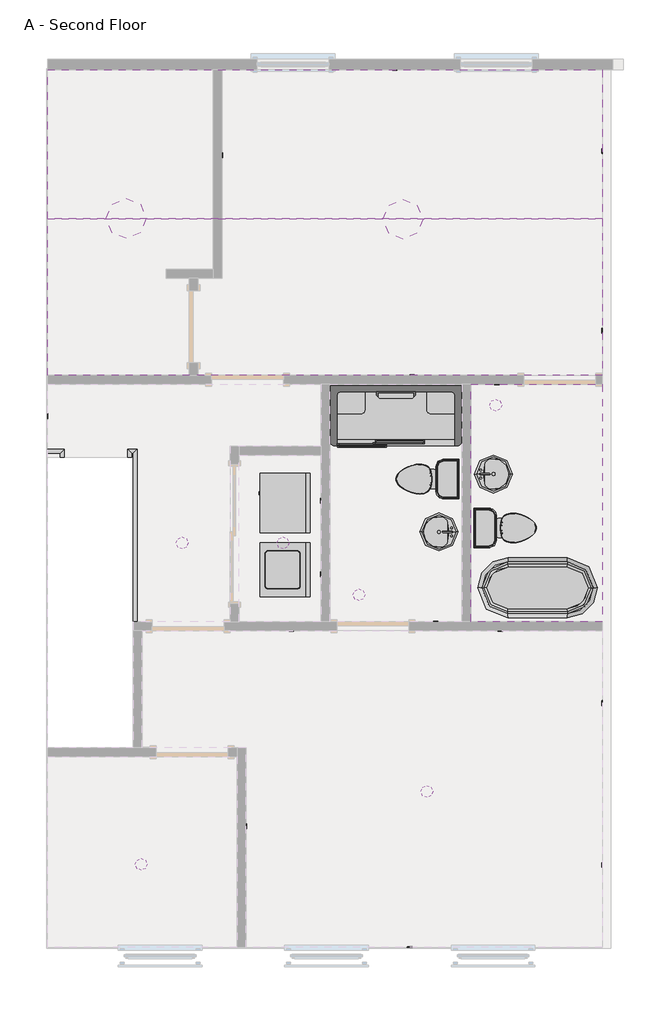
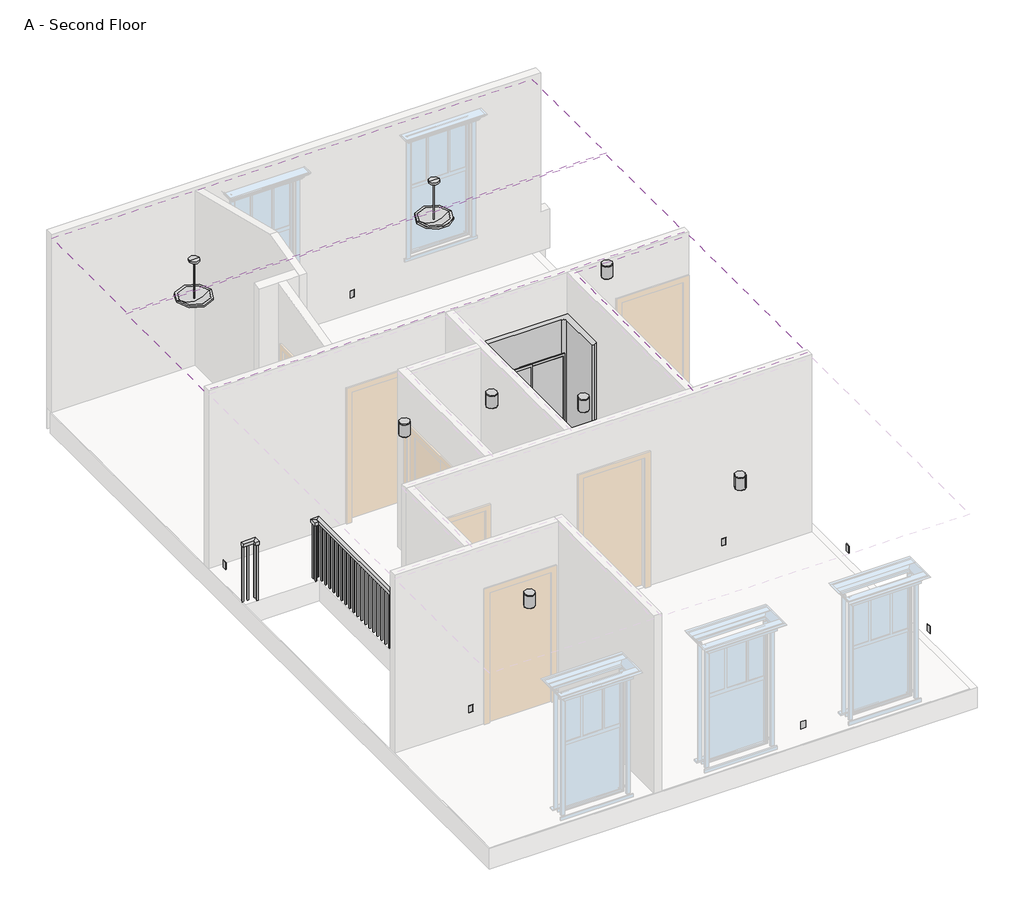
# One storey, part 2 of 2: 20 proxies, 8 light fixtures, 6 flow terminals, 3 coverings, 2 railings.
"""IFC4 building model written with IfcOpenShell, lengths in millimetres."""

from ifc_helpers import new_model, si_unit, point, frame, frame_2d, origin, place, context, project, spatial, polyline, circle_curve, trimmed, segment, composite_curve, outline, extrude, faceted_brep, transform, mapped, element, save
from components import proxy_6b4a07a9, outlet_duplex_single_ff17b859, outlet_duplex_single_f6f302db, outlet_duplex_single_5e711ab5, outlet_duplex_single_54e95fff, outlet_gfi_single_f183cc38, proxy_718fa39f, shower_shower_a77f1988, flow_terminal_d49f872f, toilet_domestic_3d_toilet_domestic_3d_f7549cf7, toilet_domestic_3d_toilet_domestic_3d_183bbd19, flow_terminal_b374fae2, light_fixture_e8692caf, pendant_light_hemisphere_100w_120v_9c66a66f

model = new_model("IFC4")

# Units and contexts
model_context = context("Model", 3, world=origin())
ifc_project = project(units=[si_unit("LENGTHUNIT", "METRE", prefix="MILLI")], contexts=[model_context])

# Site, building, storey
site = spatial("IfcSite", under=ifc_project)
building = spatial("IfcBuilding", under=site)
storey = spatial("IfcBuildingStorey", under=building, Name="A - Second Floor", Elevation=3371.85)

# Proxies
placement = place(None, origin())
proxy_shape = proxy_6b4a07a9(model_context)
element("IfcBuildingElementProxy", 1, Name="Dryer : 30\" x 25\" x 35\"", ObjectType="Dryer : 30\" x 25\" x 35\"", at=placement, inside=storey, context=model_context, shape_type="MappedRepresentation", body=[
    mapped(proxy_shape, transform((-8570.7739524, -1054.1664899, 3371.85), x_axis=(0.0, -1.0, 0.0), y_axis=(1.0, 0.0, 0.0), z_axis=(0.0, 0.0, 1.0))),
])
outlet_duplex_single_shape = outlet_duplex_single_ff17b859(model_context)
element("IfcBuildingElementProxy", 2, Name="Outlet-Duplex : Single", ObjectType="Outlet-Duplex : Single", at=placement, inside=storey, context=model_context, shape_type="MappedRepresentation", body=[
    mapped(outlet_duplex_single_shape, transform((-6668.3824123, -7238.6414462, 3371.85), x_axis=(1.0, 0.0, 0.0), y_axis=(0.0, 1.0, 0.0), z_axis=(0.0, 0.0, 1.0))),
])
element("IfcBuildingElementProxy", 3, Name="Outlet-Duplex : Single", ObjectType="Outlet-Duplex : Single", at=placement, inside=storey, context=model_context, shape_type="MappedRepresentation", body=[
    mapped(outlet_duplex_single_shape, transform((-11397.7754486, -363.1789462, 3371.85), x_axis=(0.0, -1.0, 0.0), y_axis=(1.0, 0.0, 0.0), z_axis=(0.0, 0.0, 1.0))),
])
outlet_duplex_single_2_shape = outlet_duplex_single_f6f302db(model_context)
element("IfcBuildingElementProxy", 4, Name="Outlet-Duplex : Single", ObjectType="Outlet-Duplex : Single", at=placement, inside=storey, context=model_context, shape_type="MappedRepresentation", body=[
    mapped(outlet_duplex_single_2_shape, transform((-4084.1629486, -6075.0039462, 3371.85), x_axis=(0.0, 1.0, 0.0), y_axis=(-1.0, 0.0, 0.0), z_axis=(0.0, 0.0, 1.0))),
])
element("IfcBuildingElementProxy", 5, Name="Outlet-Duplex : Single", ObjectType="Outlet-Duplex : Single", at=placement, inside=storey, context=model_context, shape_type="MappedRepresentation", body=[
    mapped(outlet_duplex_single_2_shape, transform((-4084.1629486, -4017.6039462, 3371.85), x_axis=(0.0, 1.0, 0.0), y_axis=(-1.0, 0.0, 0.0), z_axis=(0.0, 0.0, 1.0))),
])
element("IfcBuildingElementProxy", 6, Name="Outlet-Duplex : Single", ObjectType="Outlet-Duplex : Single", at=placement, inside=storey, context=model_context, shape_type="MappedRepresentation", body=[
    mapped(outlet_duplex_single_2_shape, transform((-4084.1629486, 3005.4960538, 3371.85), x_axis=(0.0, 1.0, 0.0), y_axis=(-1.0, 0.0, 0.0), z_axis=(0.0, 0.0, 1.0))),
])
element("IfcBuildingElementProxy", 7, Name="Outlet-Duplex : Single", ObjectType="Outlet-Duplex : Single", at=placement, inside=storey, context=model_context, shape_type="MappedRepresentation", body=[
    mapped(outlet_duplex_single_2_shape, transform((-4084.1629486, 719.4960538, 3371.85), x_axis=(0.0, 1.0, 0.0), y_axis=(-1.0, 0.0, 0.0), z_axis=(0.0, 0.0, 1.0))),
])
outlet_duplex_single_3_shape = outlet_duplex_single_5e711ab5(model_context)
element("IfcBuildingElementProxy", 8, Name="Outlet-Duplex : Single", ObjectType="Outlet-Duplex : Single", at=placement, inside=storey, context=model_context, shape_type="MappedRepresentation", body=[
    mapped(outlet_duplex_single_3_shape, transform((-10161.1129486, -4639.9039462, 3371.85), x_axis=(-1.0, 0.0, 0.0), y_axis=(0.0, -1.0, 0.0), z_axis=(0.0, 0.0, 1.0))),
])
element("IfcBuildingElementProxy", 9, Name="Outlet-Duplex : Single", ObjectType="Outlet-Duplex : Single", at=placement, inside=storey, context=model_context, shape_type="MappedRepresentation", body=[
    mapped(outlet_duplex_single_3_shape, transform((-9618.1879486, 1443.3960538, 3371.85), x_axis=(1.0, 0.0, 0.0), y_axis=(0.0, 1.0, 0.0), z_axis=(0.0, 0.0, 1.0))),
])
element("IfcBuildingElementProxy", 10, Name="Outlet-Duplex : Single", ObjectType="Outlet-Duplex : Single", at=placement, inside=storey, context=model_context, shape_type="MappedRepresentation", body=[
    mapped(outlet_duplex_single_3_shape, transform((-5516.0879486, -3039.7039462, 3371.85), x_axis=(-1.0, 0.0, 0.0), y_axis=(0.0, -1.0, 0.0), z_axis=(0.0, 0.0, 1.0))),
])
element("IfcBuildingElementProxy", 11, Name="Outlet-Duplex : Single", ObjectType="Outlet-Duplex : Single", at=placement, inside=storey, context=model_context, shape_type="MappedRepresentation", body=[
    mapped(outlet_duplex_single_3_shape, transform((-8176.7379486, -3039.7039462, 3371.85), x_axis=(-1.0, 0.0, 0.0), y_axis=(0.0, -1.0, 0.0), z_axis=(0.0, 0.0, 1.0))),
])
element("IfcBuildingElementProxy", 12, Name="Outlet-Duplex : Single", ObjectType="Outlet-Duplex : Single", at=placement, inside=storey, context=model_context, shape_type="MappedRepresentation", body=[
    mapped(outlet_duplex_single_3_shape, transform((-8811.7379486, -5582.8789462, 3371.85), x_axis=(0.0, -1.0, 0.0), y_axis=(1.0, 0.0, 0.0), z_axis=(0.0, 0.0, 1.0))),
])
element("IfcBuildingElementProxy", 13, Name="Outlet-Duplex : Single", ObjectType="Outlet-Duplex : Single", at=placement, inside=storey, context=model_context, shape_type="MappedRepresentation", body=[
    mapped(outlet_duplex_single_3_shape, transform((-9116.5379486, 2951.5210538, 3371.85), x_axis=(0.0, -1.0, 0.0), y_axis=(1.0, 0.0, 0.0), z_axis=(0.0, 0.0, 1.0))),
])
element("IfcBuildingElementProxy", 14, Name="Outlet-Duplex : Single", ObjectType="Outlet-Duplex : Single", at=placement, inside=storey, context=model_context, shape_type="MappedRepresentation", body=[
    mapped(outlet_duplex_single_3_shape, transform((-6640.0379486, 97.1960538, 3371.85), x_axis=(1.0, 0.0, 0.0), y_axis=(0.0, 1.0, 0.0), z_axis=(0.0, 0.0, 1.0))),
])
outlet_duplex_single_4_shape = outlet_duplex_single_54e95fff(model_context)
element("IfcBuildingElementProxy", 15, Name="Outlet-Duplex : Single", ObjectType="Outlet-Duplex : Single", at=placement, inside=storey, context=model_context, shape_type="MappedRepresentation", body=[
    mapped(outlet_duplex_single_4_shape, transform((-6862.2879486, 4107.2210538, 3371.85), x_axis=(-1.0, 0.0, 0.0), y_axis=(0.0, -1.0, 0.0), z_axis=(0.0, 0.0, 1.0))),
])
outlet_gfi_single_shape = outlet_gfi_single_f183cc38(model_context)
element("IfcBuildingElementProxy", 16, Name="Outlet-GFI : Single", ObjectType="Outlet-GFI : Single", at=placement, inside=storey, context=model_context, shape_type="MappedRepresentation", body=[
    mapped(outlet_gfi_single_shape, transform((-6338.4129486, -3039.7039462, 3371.85), x_axis=(1.0, 0.0, 0.0), y_axis=(0.0, 1.0, 0.0), z_axis=(0.0, 0.0, 1.0))),
])
element("IfcBuildingElementProxy", 17, Name="Outlet-GFI : Single", ObjectType="Outlet-GFI : Single", at=placement, inside=storey, context=model_context, shape_type="MappedRepresentation", body=[
    mapped(outlet_gfi_single_shape, transform((-5562.1254486, 97.1960538, 3371.85), x_axis=(-1.0, 0.0, 0.0), y_axis=(0.0, -1.0, 0.0), z_axis=(0.0, 0.0, 1.0))),
])
element("IfcBuildingElementProxy", 18, Name="Outlet-GFI : Single", ObjectType="Outlet-GFI : Single", at=placement, inside=storey, context=model_context, shape_type="MappedRepresentation", body=[
    mapped(outlet_gfi_single_shape, transform((-7741.7629486, -2376.1289462, 3371.85), x_axis=(0.0, 1.0, 0.0), y_axis=(-1.0, 0.0, 0.0), z_axis=(0.0, 0.0, 1.0))),
])
element("IfcBuildingElementProxy", 19, Name="Outlet-GFI : Single", ObjectType="Outlet-GFI : Single", at=placement, inside=storey, context=model_context, shape_type="MappedRepresentation", body=[
    mapped(outlet_gfi_single_shape, transform((-7741.7629486, -1442.6789462, 3371.85), x_axis=(0.0, 1.0, 0.0), y_axis=(-1.0, 0.0, 0.0), z_axis=(0.0, 0.0, 1.0))),
])
proxy_2_shape = proxy_718fa39f(model_context)
element("IfcBuildingElementProxy", 20, Name="Washer : 27\" x 25\" x 35\"", ObjectType="Washer : 27\" x 25\" x 35\"", at=placement, inside=storey, context=model_context, shape_type="MappedRepresentation", body=[
    mapped(proxy_2_shape, transform((-8535.2625134, -1901.7364777, 3371.85), x_axis=(0.0, -1.0, 0.0), y_axis=(1.0, 0.0, 0.0), z_axis=(0.0, 0.0, 1.0))),
])

# Coverings
element("IfcCovering", 21, ObjectType="GWB on Furring", at=placement, inside=storey, context=model_context, shape_type="SweptSolid", body=[
    extrude(outline(polyline([(-5893.9129486, 40.0460538), (-4217.5129486, 40.0460538), (-4217.5129486, -2982.5539462), (-5893.9129486, -2982.5539462), (-5893.9129486, 40.0460538)]), holes=[composite_curve([segment(trimmed(circle_curve(frame_2d((-5576.4129486, -226.6539462)), 76.2), [point((-5652.6129486, -226.6539462))], [point((-5500.2129486, -226.6539462))], True, "CARTESIAN"), True, "CONTINUOUS"), segment(trimmed(circle_curve(frame_2d((-5576.4129486, -226.6539462)), 76.2), [point((-5500.2129486, -226.6539462))], [point((-5652.6129486, -226.6539462))], True, "CARTESIAN"), True, "CONTINUOUS")], self_intersect=False)]), frame((0.0, 0.0, 6089.65), z_axis=(0.0, 0.0, 1.0), x_axis=(1.0, 0.0, 0.0)), (0.0, 0.0, 1.0), 31.75),
])
element("IfcCovering", 22, ObjectType="GWB on Furring", at=placement, inside=storey, context=model_context, shape_type="SweptSolid", body=[
    extrude(outline(polyline([(2141.8960538, 6597.0396509), (4040.5460538, 6122.3771509), (4040.5460538, 6089.65), (2141.8960538, 6564.3125), (2141.8960538, 6597.0396509)])), frame((-11281.8879486, 0.0, 0.0), z_axis=(1.0, 0.0, 0.0), x_axis=(0.0, 1.0, 0.0)), (0.0, 0.0, 1.0), 7064.375),
])
element("IfcCovering", 23, ObjectType="GWB on Furring", at=placement, inside=storey, context=model_context, shape_type="SweptSolid", body=[
    extrude(outline(polyline([(154.3460538, 6100.1521509), (2141.8960538, 6597.0396509), (2141.8960538, 6564.3125), (154.3460538, 6067.425), (154.3460538, 6100.1521509)])), frame((-11281.8879486, 0.0, 0.0), z_axis=(1.0, 0.0, 0.0), x_axis=(0.0, 1.0, 0.0)), (0.0, 0.0, 1.0), 7064.375),
])

# Flow terminals
shower_shower_shape = shower_shower_a77f1988(model_context)
element("IfcFlowTerminal", 24, ObjectType="Shower : Shower", at=placement, inside=storey, context=model_context, shape_type="MappedRepresentation", body=[
    mapped(shower_shower_shape, transform((-6884.5129486, 97.1960538, 3371.85), x_axis=(1.0, 0.0, 0.0), y_axis=(0.0, 1.0, 0.0), z_axis=(0.0, 0.0, 1.0))),
])
flow_terminal_shape = flow_terminal_d49f872f(model_context)
element("IfcFlowTerminal", 25, ObjectType="Sink Vanity-Round : 19\" x 19\"", at=placement, inside=storey, context=model_context, shape_type="MappedRepresentation", body=[
    mapped(flow_terminal_shape, transform((-6383.5474148, -1742.9022056, 3381.502), x_axis=(0.0, -1.0, 0.0), y_axis=(1.0, 0.0, 0.0), z_axis=(0.0, 0.0, 1.0))),
])
element("IfcFlowTerminal", 26, ObjectType="Sink Vanity-Round : 19\" x 19\"", at=placement, inside=storey, context=model_context, shape_type="MappedRepresentation", body=[
    mapped(flow_terminal_shape, transform((-5518.5784824, -1199.6056868, 3381.502), x_axis=(0.0, 1.0, 0.0), y_axis=(-1.0, 0.0, 0.0), z_axis=(0.0, 0.0, 1.0))),
])
toilet_domestic_3d_toilet_domestic_3d_shape = toilet_domestic_3d_toilet_domestic_3d_f7549cf7(model_context)
toilet_domestic_3d_toilet_domestic_3d_2_shape = toilet_domestic_3d_toilet_domestic_3d_183bbd19(model_context)
element("IfcFlowTerminal", 27, ObjectType="Toilet-Domestic-3D : Toilet-Domestic-3D", at=placement, inside=storey, context=model_context, shape_type="MappedRepresentation", body=[
    mapped(toilet_domestic_3d_toilet_domestic_3d_shape, transform((-6541.0089759, -1166.4539462, 3371.85), x_axis=(0.0, -1.0, 0.0), y_axis=(1.0, 0.0, 0.0), z_axis=(0.0, 0.0, 1.0))),
    mapped(toilet_domestic_3d_toilet_domestic_3d_2_shape, transform((-6541.0089759, -1166.4539462, 3371.85), x_axis=(0.0, -1.0, 0.0), y_axis=(1.0, 0.0, 0.0), z_axis=(0.0, 0.0, 1.0))),
])
element("IfcFlowTerminal", 28, ObjectType="Toilet-Domestic-3D : Toilet-Domestic-3D", at=placement, inside=storey, context=model_context, shape_type="MappedRepresentation", body=[
    mapped(toilet_domestic_3d_toilet_domestic_3d_shape, transform((-5361.1169212, -1788.7539462, 3371.85), x_axis=(0.0, 1.0, 0.0), y_axis=(-1.0, 0.0, 0.0), z_axis=(0.0, 0.0, 1.0))),
    mapped(toilet_domestic_3d_toilet_domestic_3d_2_shape, transform((-5361.1169212, -1788.7539462, 3371.85), x_axis=(0.0, 1.0, 0.0), y_axis=(-1.0, 0.0, 0.0), z_axis=(0.0, 0.0, 1.0))),
])
flow_terminal_2_shape = flow_terminal_b374fae2(model_context)
element("IfcFlowTerminal", 29, ObjectType="Tub-Free Standing-3D : 30\" x 60\"", at=placement, inside=storey, context=model_context, shape_type="MappedRepresentation", body=[
    mapped(flow_terminal_2_shape, transform((-5043.0129486, -2550.7539462, 3371.85), x_axis=(0.0, 1.0, 0.0), y_axis=(-1.0, 0.0, 0.0), z_axis=(0.0, 0.0, 1.0))),
])

# Light fixtures
light_fixture_shape = light_fixture_e8692caf(model_context)
element("IfcLightFixture", 30, ObjectType="Downlight - Recessed Can : 6\" Incandescent - 120V", at=placement, inside=storey, context=model_context, shape_type="MappedRepresentation", body=[
    mapped(light_fixture_shape, transform((-10088.0879486, -6068.6539462, 3651.25), x_axis=(1.0, 0.0, 0.0), y_axis=(0.0, 1.0, 0.0), z_axis=(0.0, 0.0, 1.0))),
])
element("IfcLightFixture", 31, ObjectType="Downlight - Recessed Can : 6\" Incandescent - 120V", at=placement, inside=storey, context=model_context, shape_type="MappedRepresentation", body=[
    mapped(light_fixture_shape, transform((-9567.3879486, -1979.2539462, 3651.25), x_axis=(1.0, 0.0, 0.0), y_axis=(0.0, 1.0, 0.0), z_axis=(0.0, 0.0, 1.0))),
])
element("IfcLightFixture", 32, ObjectType="Downlight - Recessed Can : 6\" Incandescent - 120V", at=placement, inside=storey, context=model_context, shape_type="MappedRepresentation", body=[
    mapped(light_fixture_shape, transform((-8284.6879486, -1979.2539462, 3651.25), x_axis=(1.0, 0.0, 0.0), y_axis=(0.0, 1.0, 0.0), z_axis=(0.0, 0.0, 1.0))),
])
element("IfcLightFixture", 33, ObjectType="Downlight - Recessed Can : 6\" Incandescent - 120V", at=placement, inside=storey, context=model_context, shape_type="MappedRepresentation", body=[
    mapped(light_fixture_shape, transform((-7316.3129486, -2639.6539462, 3651.25), x_axis=(1.0, 0.0, 0.0), y_axis=(0.0, 1.0, 0.0), z_axis=(0.0, 0.0, 1.0))),
])
element("IfcLightFixture", 34, ObjectType="Downlight - Recessed Can : 6\" Incandescent - 120V", at=placement, inside=storey, context=model_context, shape_type="MappedRepresentation", body=[
    mapped(light_fixture_shape, transform((-5576.4129486, -226.6539462, 3651.25), x_axis=(1.0, 0.0, 0.0), y_axis=(0.0, 1.0, 0.0), z_axis=(0.0, 0.0, 1.0))),
])
element("IfcLightFixture", 35, ObjectType="Downlight - Recessed Can : 6\" Incandescent - 120V", at=placement, inside=storey, context=model_context, shape_type="MappedRepresentation", body=[
    mapped(light_fixture_shape, transform((-6452.7129486, -5141.5539462, 3651.25), x_axis=(1.0, 0.0, 0.0), y_axis=(0.0, 1.0, 0.0), z_axis=(0.0, 0.0, 1.0))),
])
pendant_light_hemisphere_100w_120v_shape = pendant_light_hemisphere_100w_120v_9c66a66f(model_context)
element("IfcLightFixture", 36, ObjectType="Pendant Light - Hemisphere : 100W - 120V", at=placement, inside=storey, context=model_context, shape_type="MappedRepresentation", body=[
    mapped(pendant_light_hemisphere_100w_120v_shape, transform((-10278.5879486, 2148.4800478, 4124.2665015), x_axis=(1.0, 0.0, 0.0), y_axis=(0.0, 1.0, 0.0), z_axis=(0.0, 0.0, 1.0))),
])
element("IfcLightFixture", 37, ObjectType="Pendant Light - Hemisphere : 100W - 120V", at=placement, inside=storey, context=model_context, shape_type="MappedRepresentation", body=[
    mapped(pendant_light_hemisphere_100w_120v_shape, transform((-6757.5129486, 2138.1502269, 4124.9760433), x_axis=(-1.0, 0.0, 0.0), y_axis=(0.0, -1.0, 0.0), z_axis=(0.0, 0.0, 1.0))),
])

# Railings
element("IfcRailing", 38, ObjectType="Handrail - Rectangular", at=placement, inside=storey, context=model_context, shape_type="SolidModel", body=[
    faceted_brep([(-11281.8879486, -836.2539462, 4286.25), (-11281.8879486, -785.4539462, 4286.25), (-11281.8879486, -785.4539462, 4235.45), (-11281.8879486, -836.2539462, 4235.45), (-11123.1379486, -836.2539462, 4235.45), (-11123.1379486, -836.2539462, 4286.25), (-11072.3379486, -785.4539462, 4235.45), (-11072.3379486, -785.4539462, 4286.25), (-11123.1379486, -887.0539462, 4286.25), (-11123.1379486, -887.0539462, 4235.45), (-11072.3379486, -887.0539462, 4235.45), (-11072.3379486, -887.0539462, 4286.25)], [[[0, 1, 2, 3]], [[4, 5, 0, 3]], [[6, 4, 3, 2]], [[7, 6, 2, 1]], [[5, 7, 1, 0]], [[8, 9, 10, 11]], [[9, 8, 5, 4]], [[10, 9, 4, 6]], [[11, 10, 6, 7]], [[8, 11, 7, 5]]]),
    extrude(outline(polyline([(-11189.8129486, -801.3289462), (-11189.8129486, -820.3789462), (-11208.8629486, -820.3789462), (-11208.8629486, -801.3289462), (-11189.8129486, -801.3289462)])), frame((0.0, 0.0, 3371.85), z_axis=(0.0, 0.0, 1.0), x_axis=(1.0, 0.0, 0.0)), (0.0, 0.0, 1.0), 863.6),
    extrude(outline(polyline([(-11088.2129486, -820.3789462), (-11107.2629486, -820.3789462), (-11107.2629486, -801.3289462), (-11088.2129486, -801.3289462), (-11088.2129486, -820.3789462)])), frame((0.0, 0.0, 3371.85), z_axis=(0.0, 0.0, 1.0), x_axis=(1.0, 0.0, 0.0)), (0.0, 0.0, 1.0), 863.6),
    extrude(outline(polyline([(-11262.8379486, -801.3289462), (-11262.8379486, -820.3789462), (-11281.8879486, -820.3789462), (-11281.8879486, -801.3289462), (-11262.8379486, -801.3289462)])), frame((0.0, 0.0, 3371.85), z_axis=(0.0, 0.0, 1.0), x_axis=(1.0, 0.0, 0.0)), (0.0, 0.0, 1.0), 863.6),
    extrude(outline(polyline([(-11088.2129486, -887.0539462), (-11107.2629486, -887.0539462), (-11107.2629486, -868.0039462), (-11088.2129486, -868.0039462), (-11088.2129486, -887.0539462)])), frame((0.0, 0.0, 3371.85), z_axis=(0.0, 0.0, 1.0), x_axis=(1.0, 0.0, 0.0)), (0.0, 0.0, 1.0), 863.6),
])
element("IfcRailing", 39, ObjectType="Handrail - Rectangular", at=placement, inside=storey, context=model_context, shape_type="SolidModel", body=[
    faceted_brep([(-10259.5379486, -887.0539462, 4286.25), (-10259.5379486, -887.0539462, 4235.45), (-10208.7379486, -887.0539462, 4235.45), (-10208.7379486, -887.0539462, 4286.25), (-10259.5379486, -785.4539462, 4286.25), (-10259.5379486, -785.4539462, 4235.45), (-10208.7379486, -836.2539462, 4235.45), (-10208.7379486, -836.2539462, 4286.25), (-10141.3381638, -2982.5539462, 4286.25), (-10192.1381638, -2982.5539462, 4286.25), (-10192.1381638, -2982.5539462, 4235.45), (-10141.3381638, -2982.5539462, 4235.45), (-10141.3381638, -785.4539462, 4235.45), (-10141.3381638, -785.4539462, 4286.25), (-10192.1381638, -836.2539462, 4235.45), (-10192.1381638, -836.2539462, 4286.25)], [[[0, 1, 2, 3]], [[1, 0, 4, 5]], [[2, 1, 5, 6]], [[3, 2, 6, 7]], [[0, 3, 7, 4]], [[8, 9, 10, 11]], [[12, 13, 8, 11]], [[14, 12, 11, 10]], [[15, 14, 10, 9]], [[13, 15, 9, 8]], [[5, 4, 13, 12]], [[6, 5, 12, 14]], [[7, 6, 14, 15]], [[4, 7, 15, 13]]]),
    extrude(outline(polyline([(-10176.2631638, -2934.9289462), (-10157.2131638, -2934.9289462), (-10157.2131638, -2953.9789462), (-10176.2631638, -2953.9789462), (-10176.2631638, -2934.9289462)])), frame((0.0, 0.0, 3371.85), z_axis=(0.0, 0.0, 1.0), x_axis=(1.0, 0.0, 0.0)), (0.0, 0.0, 1.0), 863.6),
    extrude(outline(polyline([(-10176.2631638, -2833.3289462), (-10157.2131638, -2833.3289462), (-10157.2131638, -2852.3789462), (-10176.2631638, -2852.3789462), (-10176.2631638, -2833.3289462)])), frame((0.0, 0.0, 3371.85), z_axis=(0.0, 0.0, 1.0), x_axis=(1.0, 0.0, 0.0)), (0.0, 0.0, 1.0), 863.6),
    extrude(outline(polyline([(-10176.2631638, -2731.7289462), (-10157.2131638, -2731.7289462), (-10157.2131638, -2750.7789462), (-10176.2631638, -2750.7789462), (-10176.2631638, -2731.7289462)])), frame((0.0, 0.0, 3371.85), z_axis=(0.0, 0.0, 1.0), x_axis=(1.0, 0.0, 0.0)), (0.0, 0.0, 1.0), 863.6),
    extrude(outline(polyline([(-10176.2631638, -2630.1289462), (-10157.2131638, -2630.1289462), (-10157.2131638, -2649.1789462), (-10176.2631638, -2649.1789462), (-10176.2631638, -2630.1289462)])), frame((0.0, 0.0, 3371.85), z_axis=(0.0, 0.0, 1.0), x_axis=(1.0, 0.0, 0.0)), (0.0, 0.0, 1.0), 863.6),
    extrude(outline(polyline([(-10176.2631638, -2528.5289462), (-10157.2131638, -2528.5289462), (-10157.2131638, -2547.5789462), (-10176.2631638, -2547.5789462), (-10176.2631638, -2528.5289462)])), frame((0.0, 0.0, 3371.85), z_axis=(0.0, 0.0, 1.0), x_axis=(1.0, 0.0, 0.0)), (0.0, 0.0, 1.0), 863.6),
    extrude(outline(polyline([(-10176.2631638, -2426.9289462), (-10157.2131638, -2426.9289462), (-10157.2131638, -2445.9789462), (-10176.2631638, -2445.9789462), (-10176.2631638, -2426.9289462)])), frame((0.0, 0.0, 3371.85), z_axis=(0.0, 0.0, 1.0), x_axis=(1.0, 0.0, 0.0)), (0.0, 0.0, 1.0), 863.6),
    extrude(outline(polyline([(-10176.2631638, -2325.3289462), (-10157.2131638, -2325.3289462), (-10157.2131638, -2344.3789462), (-10176.2631638, -2344.3789462), (-10176.2631638, -2325.3289462)])), frame((0.0, 0.0, 3371.85), z_axis=(0.0, 0.0, 1.0), x_axis=(1.0, 0.0, 0.0)), (0.0, 0.0, 1.0), 863.6),
    extrude(outline(polyline([(-10176.2631638, -2223.7289462), (-10157.2131638, -2223.7289462), (-10157.2131638, -2242.7789462), (-10176.2631638, -2242.7789462), (-10176.2631638, -2223.7289462)])), frame((0.0, 0.0, 3371.85), z_axis=(0.0, 0.0, 1.0), x_axis=(1.0, 0.0, 0.0)), (0.0, 0.0, 1.0), 863.6),
    extrude(outline(polyline([(-10176.2631638, -2122.1289462), (-10157.2131638, -2122.1289462), (-10157.2131638, -2141.1789462), (-10176.2631638, -2141.1789462), (-10176.2631638, -2122.1289462)])), frame((0.0, 0.0, 3371.85), z_axis=(0.0, 0.0, 1.0), x_axis=(1.0, 0.0, 0.0)), (0.0, 0.0, 1.0), 863.6),
    extrude(outline(polyline([(-10176.2631638, -2020.5289462), (-10157.2131638, -2020.5289462), (-10157.2131638, -2039.5789462), (-10176.2631638, -2039.5789462), (-10176.2631638, -2020.5289462)])), frame((0.0, 0.0, 3371.85), z_axis=(0.0, 0.0, 1.0), x_axis=(1.0, 0.0, 0.0)), (0.0, 0.0, 1.0), 863.6),
    extrude(outline(polyline([(-10176.2631638, -1918.9289462), (-10157.2131638, -1918.9289462), (-10157.2131638, -1937.9789462), (-10176.2631638, -1937.9789462), (-10176.2631638, -1918.9289462)])), frame((0.0, 0.0, 3371.85), z_axis=(0.0, 0.0, 1.0), x_axis=(1.0, 0.0, 0.0)), (0.0, 0.0, 1.0), 863.6),
    extrude(outline(polyline([(-10176.2631638, -1817.3289462), (-10157.2131638, -1817.3289462), (-10157.2131638, -1836.3789462), (-10176.2631638, -1836.3789462), (-10176.2631638, -1817.3289462)])), frame((0.0, 0.0, 3371.85), z_axis=(0.0, 0.0, 1.0), x_axis=(1.0, 0.0, 0.0)), (0.0, 0.0, 1.0), 863.6),
    extrude(outline(polyline([(-10176.2631638, -1715.7289462), (-10157.2131638, -1715.7289462), (-10157.2131638, -1734.7789462), (-10176.2631638, -1734.7789462), (-10176.2631638, -1715.7289462)])), frame((0.0, 0.0, 3371.85), z_axis=(0.0, 0.0, 1.0), x_axis=(1.0, 0.0, 0.0)), (0.0, 0.0, 1.0), 863.6),
    extrude(outline(polyline([(-10176.2631638, -1614.1289462), (-10157.2131638, -1614.1289462), (-10157.2131638, -1633.1789462), (-10176.2631638, -1633.1789462), (-10176.2631638, -1614.1289462)])), frame((0.0, 0.0, 3371.85), z_axis=(0.0, 0.0, 1.0), x_axis=(1.0, 0.0, 0.0)), (0.0, 0.0, 1.0), 863.6),
    extrude(outline(polyline([(-10176.2631638, -1512.5289462), (-10157.2131638, -1512.5289462), (-10157.2131638, -1531.5789462), (-10176.2631638, -1531.5789462), (-10176.2631638, -1512.5289462)])), frame((0.0, 0.0, 3371.85), z_axis=(0.0, 0.0, 1.0), x_axis=(1.0, 0.0, 0.0)), (0.0, 0.0, 1.0), 863.6),
    extrude(outline(polyline([(-10176.2631638, -1410.9289462), (-10157.2131638, -1410.9289462), (-10157.2131638, -1429.9789462), (-10176.2631638, -1429.9789462), (-10176.2631638, -1410.9289462)])), frame((0.0, 0.0, 3371.85), z_axis=(0.0, 0.0, 1.0), x_axis=(1.0, 0.0, 0.0)), (0.0, 0.0, 1.0), 863.6),
    extrude(outline(polyline([(-10176.2631638, -1309.3289462), (-10157.2131638, -1309.3289462), (-10157.2131638, -1328.3789462), (-10176.2631638, -1328.3789462), (-10176.2631638, -1309.3289462)])), frame((0.0, 0.0, 3371.85), z_axis=(0.0, 0.0, 1.0), x_axis=(1.0, 0.0, 0.0)), (0.0, 0.0, 1.0), 863.6),
    extrude(outline(polyline([(-10176.2631638, -1207.7289462), (-10157.2131638, -1207.7289462), (-10157.2131638, -1226.7789462), (-10176.2631638, -1226.7789462), (-10176.2631638, -1207.7289462)])), frame((0.0, 0.0, 3371.85), z_axis=(0.0, 0.0, 1.0), x_axis=(1.0, 0.0, 0.0)), (0.0, 0.0, 1.0), 863.6),
    extrude(outline(polyline([(-10176.2631638, -1106.1289462), (-10157.2131638, -1106.1289462), (-10157.2131638, -1125.1789462), (-10176.2631638, -1125.1789462), (-10176.2631638, -1106.1289462)])), frame((0.0, 0.0, 3371.85), z_axis=(0.0, 0.0, 1.0), x_axis=(1.0, 0.0, 0.0)), (0.0, 0.0, 1.0), 863.6),
    extrude(outline(polyline([(-10176.2631638, -1004.5289462), (-10157.2131638, -1004.5289462), (-10157.2131638, -1023.5789462), (-10176.2631638, -1023.5789462), (-10176.2631638, -1004.5289462)])), frame((0.0, 0.0, 3371.85), z_axis=(0.0, 0.0, 1.0), x_axis=(1.0, 0.0, 0.0)), (0.0, 0.0, 1.0), 863.6),
    extrude(outline(polyline([(-10176.2631638, -902.9289462), (-10157.2131638, -902.9289462), (-10157.2131638, -921.9789462), (-10176.2631638, -921.9789462), (-10176.2631638, -902.9289462)])), frame((0.0, 0.0, 3371.85), z_axis=(0.0, 0.0, 1.0), x_axis=(1.0, 0.0, 0.0)), (0.0, 0.0, 1.0), 863.6),
    extrude(outline(polyline([(-10176.2631638, -820.3789462), (-10176.2631638, -801.3289462), (-10157.2131638, -801.3289462), (-10157.2131638, -820.3789462), (-10176.2631638, -820.3789462)])), frame((0.0, 0.0, 3371.85), z_axis=(0.0, 0.0, 1.0), x_axis=(1.0, 0.0, 0.0)), (0.0, 0.0, 1.0), 863.6),
    extrude(outline(polyline([(-10224.6129486, -820.3789462), (-10243.6629486, -820.3789462), (-10243.6629486, -801.3289462), (-10224.6129486, -801.3289462), (-10224.6129486, -820.3789462)])), frame((0.0, 0.0, 3371.85), z_axis=(0.0, 0.0, 1.0), x_axis=(1.0, 0.0, 0.0)), (0.0, 0.0, 1.0), 863.6),
    extrude(outline(polyline([(-10176.2631638, -2963.5039462), (-10157.2131638, -2963.5039462), (-10157.2131638, -2982.5539462), (-10176.2631638, -2982.5539462), (-10176.2631638, -2963.5039462)])), frame((0.0, 0.0, 3371.85), z_axis=(0.0, 0.0, 1.0), x_axis=(1.0, 0.0, 0.0)), (0.0, 0.0, 1.0), 863.6),
    extrude(outline(polyline([(-10224.6129486, -887.0539462), (-10243.6629486, -887.0539462), (-10243.6629486, -868.0039462), (-10224.6129486, -868.0039462), (-10224.6129486, -887.0539462)])), frame((0.0, 0.0, 3371.85), z_axis=(0.0, 0.0, 1.0), x_axis=(1.0, 0.0, 0.0)), (0.0, 0.0, 1.0), 863.6),
])

save(model, "model.ifc")
